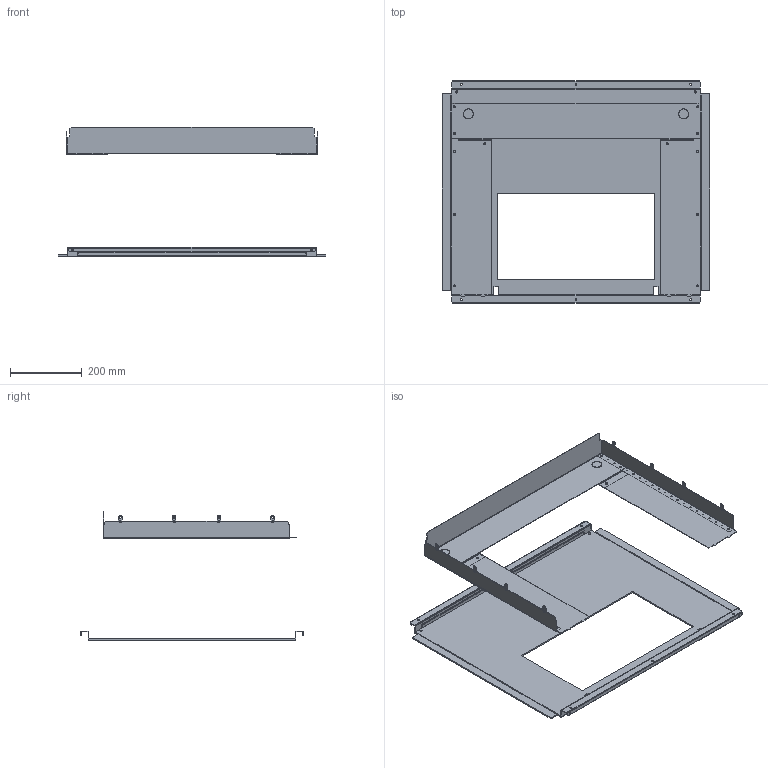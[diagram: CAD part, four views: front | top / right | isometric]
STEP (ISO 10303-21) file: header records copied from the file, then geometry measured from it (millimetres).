
FILE_DESCRIPTION(('CAx-IF Rec.Pracs.---Model Styling and Organization---1.2---2011-12-15','CAx-IF Rec.Pracs.---Geometric and Assembly Validation Properties---4.1---2014-06-16','CAx-IF Rec.Pracs.---PMI Polyline Presentation---2.0---2013-05-24'),'2;1');
FILE_NAME('R5FRC7V815224P.stp','2021-07-29T02:07:05+03:00',(''),(''),'STEP Interface 4.4 by CT CoreTechnologie','3D_Evolution4.4 by CT CoreTechnologie','');
FILE_SCHEMA(('AUTOMOTIVE_DESIGN { 1 0 10303 214 1 1 1 1 }'));
Length unit declared in the file: millimetre
Products named in the file (1): R5FRC6V815224P
Bounding box: 745 x 621 x 362 mm (x, y, z)
Surface area: 1403240.9 mm2 (no closed solid volume)
Topology: 0 solids, 10 shells, 587 faces, 1659 edges, 1092 vertices
Faces by surface type: plane 349, cylinder 238
Entity records: 19501 total; most frequent: CARTESIAN_POINT 3339, ORIENTED_EDGE 3318, DIRECTION 3311, EDGE_CURVE 1659, VECTOR 1183, LINE 1183, VERTEX_POINT 1092, AXIS2_PLACEMENT_3D 1064
